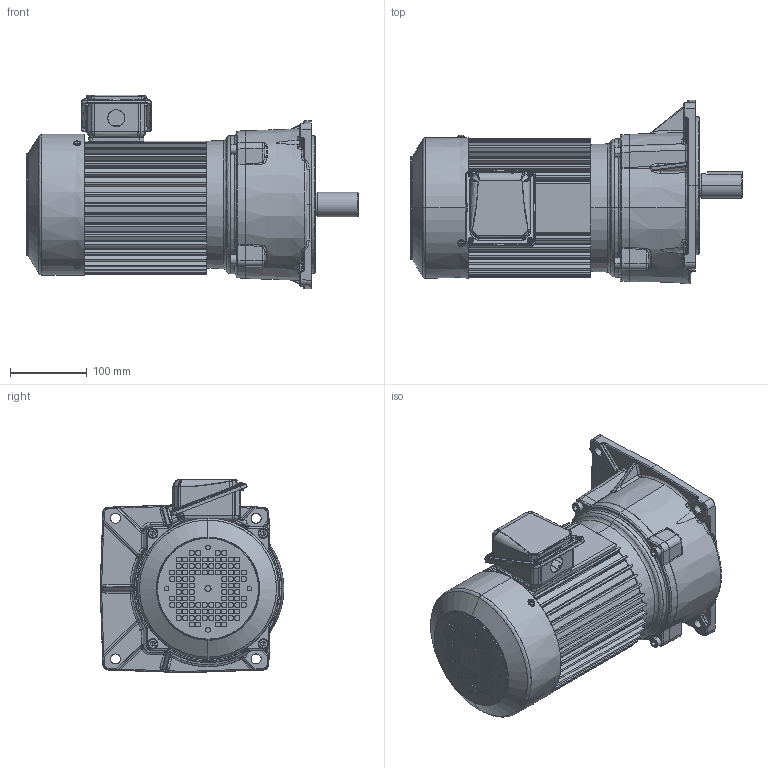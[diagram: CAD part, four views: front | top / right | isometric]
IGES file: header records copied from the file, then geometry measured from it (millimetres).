
Start section: SolidWorks IGES file using analytic representation for surfaces
Global section: file name: \\100.100.100.8\1_共有作業フォルダ\1-5_３Ｄデータ\solidworks\personal-folder\H.Nagayama\SGP1外形075~370\P1(3D)_075~370\igs\TMF2-15-(5~25).IGS; native system: SolidWorks 2018; preprocessor: SolidWorks 2018; author: sigma-giken; date: 200806.152547; units: millimetre
Bounding box: 434 x 240.19 x 253 mm (x, y, z)
Surface area: 651136.7 mm2 (no closed solid volume)
Topology: 0 solids, 0 shells, 2378 faces, 26070 edges, 26032 vertices
Faces by surface type: bspline 1252, revolution 1126
